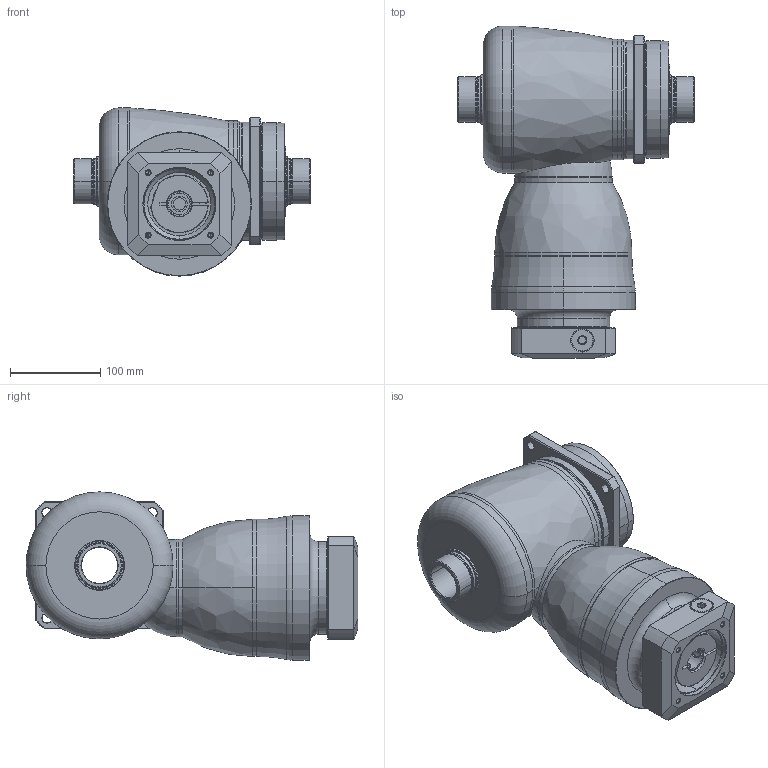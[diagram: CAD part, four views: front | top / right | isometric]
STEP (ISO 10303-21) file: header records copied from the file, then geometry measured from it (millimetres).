
FILE_DESCRIPTION((''),'2;1');
FILE_NAME('KF140_S4_2ST_24-P0409500101_ASM','2016-07-25T',('d01943'),(''),'PRO/ENGINEER BY PARAMETRIC TECHNOLOGY CORPORATION, 2008410','PRO/ENGINEER BY PARAMETRIC TECHNOLOGY CORPORATION, 2008410','');
FILE_SCHEMA(('CONFIG_CONTROL_DESIGN'));
Length unit declared in the file: millimetre
Products named in the file (11): P1008500002; P1804500001; P0914500001; P1315500001; P1007500001; P1317500101; P0409500101; P0503500010; P0912401001; 21711418017; KF140_S4_2ST_24-P0409500101_ASM
Assembly tree (10 placements, depth 2):
  KF140_S4_2ST_24-P0409500101_ASM
    P1008500002
    P1804500001
    P0914500001
    P1315500001
    P1007500001
    P1317500101
    P0409500101
    P0503500010
    P0912401001
    21711418017
Bounding box: 262 x 368 x 186.5 mm (x, y, z)
Volume: 5302952.5 mm3; surface area: 593725.2 mm2
Topology: 11 solids, 11 shells, 492 faces, 1088 edges, 640 vertices
Faces by surface type: cylinder 168, cone 134, plane 99, torus 68, bspline 21, sphere 2
Entity records: 18726 total; most frequent: CARTESIAN_POINT 7565, DIRECTION 2493, ORIENTED_EDGE 2140, EDGE_CURVE 1070, AXIS2_PLACEMENT_3D 1058, VERTEX_POINT 640, CIRCLE 566, EDGE_LOOP 562
